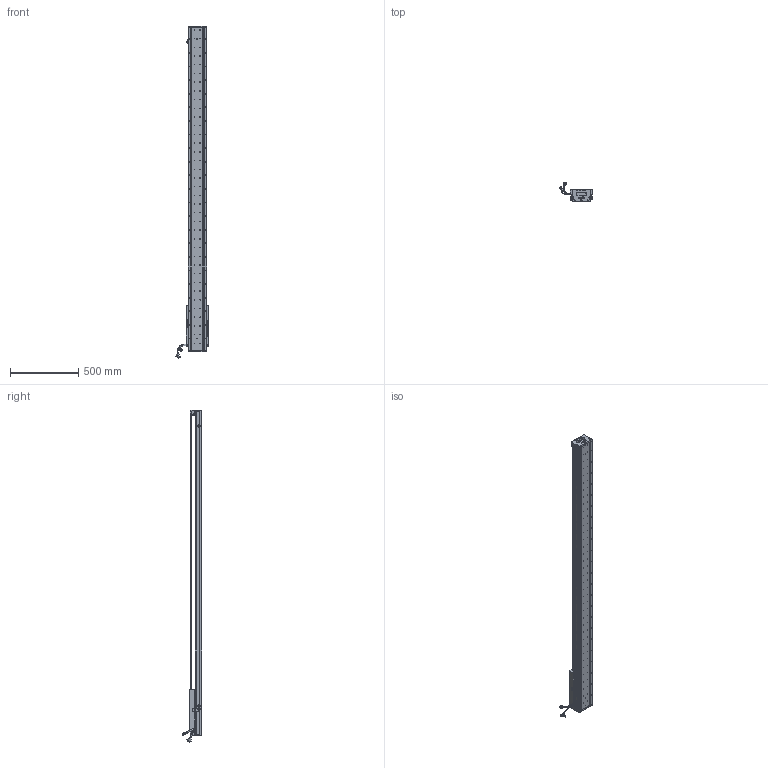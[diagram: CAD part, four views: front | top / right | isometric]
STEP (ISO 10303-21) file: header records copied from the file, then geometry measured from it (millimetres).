
FILE_DESCRIPTION (( 'STEP AP203' ), '1' );
FILE_NAME ('Z4-RY140D-1-L500-B-K.SLDASM_2000.step', '2021-05-17T08:18:13', ( '盈信电脑' ), ( '东莞市道滘镇水果街19号' ), 'SwSTEP 2.0', 'SolidWorks 2016', '' );
FILE_SCHEMA (( 'CONFIG_CONTROL_DESIGN' ));
Length unit declared in the file: millimetre
Products named in the file (36): 覜茼ん672; 140-Z-臏賑輸盄裔(21遴); SCREW-M1.6-3; SCREW-M1.6-2; SCALE-Part-2; HARNESS-Part-1; SCREW-M1.6; 詩湍狟揤裔; COVER; SCALE-Part-1; 140雄赽晤鎢ん堤盄; COVER-Part-1; 080黍杅芛假蚾釱21遴; Z4-RY140D-1-L500-B-K.SLDASM_2000; 詩湍奻揤裔; SCREW-M1.7; HARNESS-Part-2; Z-140詩湍傷裔啣; HOLDER0; 榋妏寠巭燃_暯_M2_2; Z4-RY140-L500直线电机模组底座_2000; LABEL; LABEL-Part-1; SEAL; 140蚥薯蝶輸; Z4-RY140-L500詩湍100mm遵_2000; PBU_SHEET; Z4-RY140圉猾敕臏賑輸(21遴); SCREW-M1.7-1; SEAL-Part-1; PSLH080_PSLF2; HARNESS; SCREW-M1.6-1; SHIELDPLATE; SCALE; Z-RY140感应器672光电感应片
Assembly tree (41 placements, depth 4):
  Z4-RY140D-1-L500-B-K.SLDASM_2000
    Z4-RY140-L500直线电机模组底座_2000
    Z-RY140感应器672光电感应片
    Z4-RY140圉猾敕臏賑輸(21遴)
    覜茼ん672  x3
    Z4-RY140-L500詩湍100mm遵_2000
    PSLH080_PSLF2
      SCALE
        SCALE-Part-1
        SCALE-Part-2
      HARNESS
        HARNESS-Part-1
        HARNESS-Part-2
      LABEL
        LABEL-Part-1
      COVER
        COVER-Part-1
      SEAL
        SEAL-Part-1
      榋妏寠巭燃_暯_M2_2
      SHIELDPLATE
      SCREW-M1.7
      SCREW-M1.7-1
      PBU_SHEET
      SCREW-M1.6
      SCREW-M1.6-1
      SCREW-M1.6-2
      SCREW-M1.6-3
      HOLDER0
    080黍杅芛假蚾釱21遴
    140-Z-臏賑輸盄裔(21遴)
    Z-140詩湍傷裔啣  x2
    詩湍狟揤裔  x2
    詩湍奻揤裔  x2
    140蚥薯蝶輸  x2
    140雄赽晤鎢ん堤盄
Bounding box: 239.84 x 143.88 x 2440.87 mm (x, y, z)
Volume: 8109814.3 mm3; surface area: 2088920.7 mm2
Topology: 36 solids, 36 shells, 3936 faces, 10658 edges, 6747 vertices
Faces by surface type: cylinder 2096, plane 1328, cone 390, torus 69, bspline 53
Entity records: 123530 total; most frequent: CARTESIAN_POINT 34333, ORIENTED_EDGE 18260, DIRECTION 17094, EDGE_CURVE 9130, AXIS2_PLACEMENT_3D 6356, VERTEX_POINT 5915, VECTOR 4382, LINE 4382
